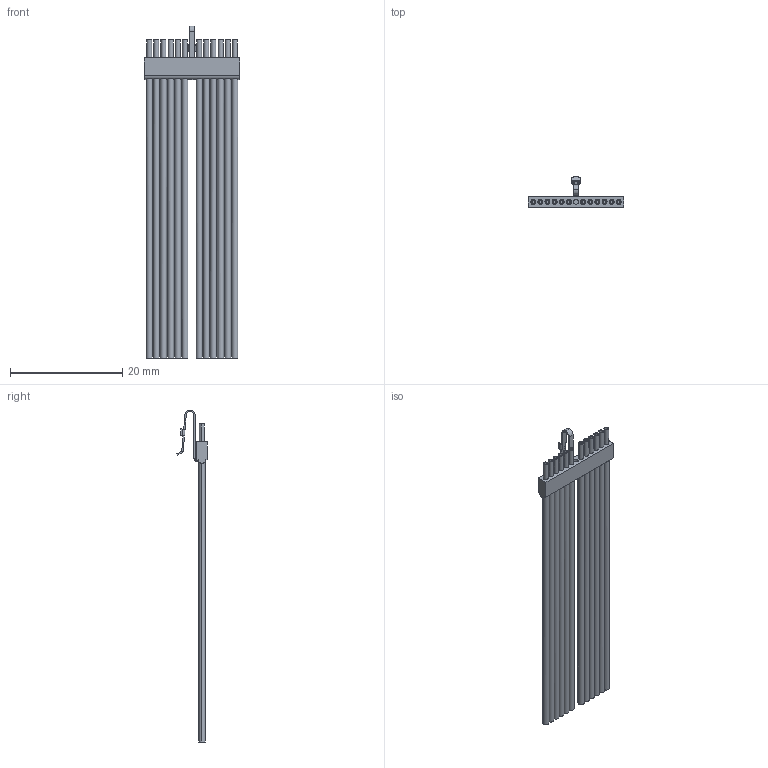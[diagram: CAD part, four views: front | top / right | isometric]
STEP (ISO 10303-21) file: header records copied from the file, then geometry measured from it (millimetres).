
FILE_DESCRIPTION (( 'STEP AP214' ), '1' );
FILE_NAME ('A25000-012.STEP', '2015-11-04T14:12:51', ( '' ), ( '' ), 'SwSTEP 2.0', 'SolidWorks 2015', '' );
FILE_SCHEMA (( 'AUTOMOTIVE_DESIGN' ));
Length unit declared in the file: inch
Products named in the file (1): A25000-012
Bounding box: 17.02 x 5.45 x 59.11 mm (x, y, z)
Volume: 688 mm3; surface area: 2710.2 mm2
Topology: 1 solids, 13 shells, 362 faces, 777 edges, 508 vertices
Faces by surface type: cylinder 191, plane 144, torus 27
Entity records: 10392 total; most frequent: CARTESIAN_POINT 2070, DIRECTION 1894, ORIENTED_EDGE 1554, AXIS2_PLACEMENT_3D 780, EDGE_CURVE 777, VERTEX_POINT 508, EDGE_LOOP 453, CIRCLE 417
